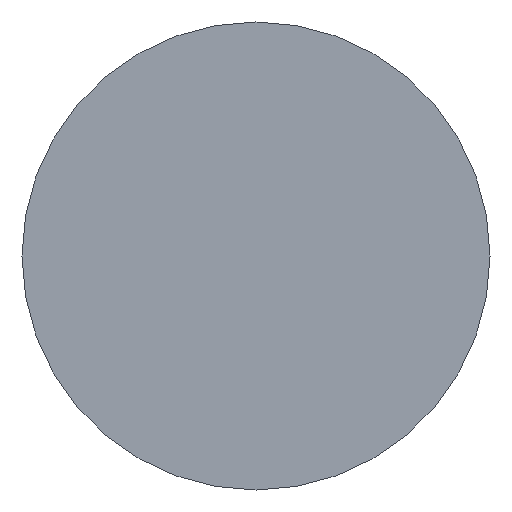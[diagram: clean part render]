
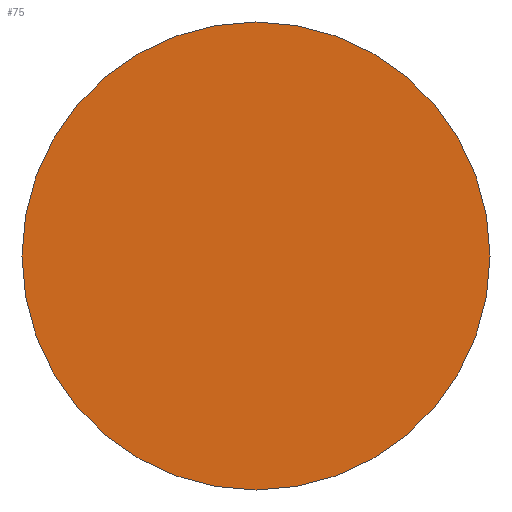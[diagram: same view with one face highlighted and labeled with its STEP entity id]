
A CAD part, front view. The second image highlights one B-rep face of the part: STEP entity #75.
In plain terms, the highlighted planar face has unit normal (0, -1, 0).
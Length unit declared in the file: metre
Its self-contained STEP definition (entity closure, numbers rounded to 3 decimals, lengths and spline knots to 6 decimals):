
#13=PLANE('',#98);
#20=ORIENTED_EDGE('',*,*,#29,.F.);
#29=EDGE_CURVE('',#35,#35,#41,.T.);
#35=VERTEX_POINT('',#139);
#41=CIRCLE('',#95,0.01);
#50=EDGE_LOOP('',(#20));
#62=FACE_BOUND('',#50,.T.);
#75=ADVANCED_FACE('',(#62),#13,.F.);
#95=AXIS2_PLACEMENT_3D('',#138,#112,#113);
#98=AXIS2_PLACEMENT_3D('',#143,#118,#119);
#112=DIRECTION('',(0.,1.,0.));
#113=DIRECTION('',(1.,0.,0.));
#118=DIRECTION('',(0.,1.,0.));
#119=DIRECTION('',(1.,0.,0.));
#138=CARTESIAN_POINT('',(0.,0.,0.));
#139=CARTESIAN_POINT('',(0.01,0.,0.));
#143=CARTESIAN_POINT('',(0.,0.,0.));
